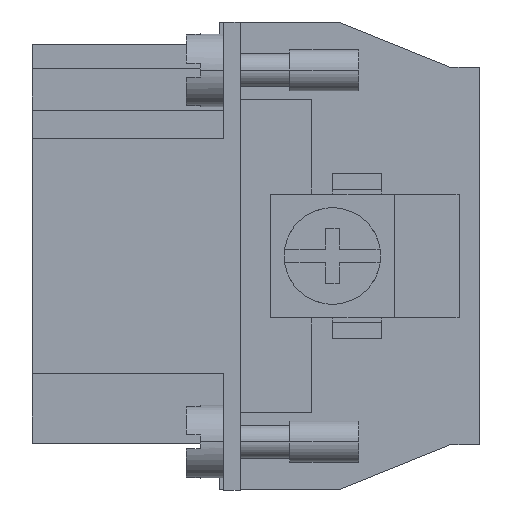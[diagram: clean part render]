
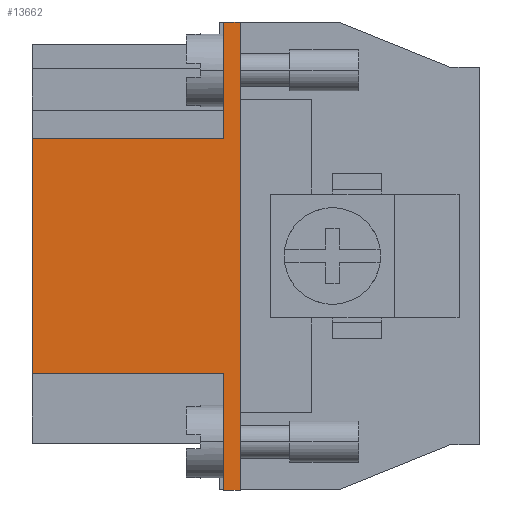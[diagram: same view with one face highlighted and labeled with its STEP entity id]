
A CAD part, left-side view. The second image highlights one B-rep face of the part: STEP entity #13662.
In plain terms, the highlighted planar face has unit normal (-1, 0, 0).
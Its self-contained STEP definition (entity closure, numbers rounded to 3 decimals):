
#331 = ORIENTED_EDGE ( 'NONE', *, *, #3796, .F. ) ;
#749 = VERTEX_POINT ( 'NONE', #3352 ) ;
#769 = VERTEX_POINT ( 'NONE', #13163 ) ;
#776 = EDGE_CURVE ( 'NONE', #749, #769, #1544, .T. ) ;
#947 = EDGE_CURVE ( 'NONE', #769, #11352, #8035, .T. ) ;
#1013 = EDGE_CURVE ( 'NONE', #6728, #7356, #6169, .T. ) ;
#1086 = EDGE_CURVE ( 'NONE', #10490, #749, #2920, .T. ) ;
#1089 = VERTEX_POINT ( 'NONE', #5008 ) ;
#1174 = CARTESIAN_POINT ( 'NONE',  ( -25.5, -13.9, -8.55 ) ) ;
#1420 = ORIENTED_EDGE ( 'NONE', *, *, #947, .T. ) ;
#1449 = ORIENTED_EDGE ( 'NONE', *, *, #1086, .T. ) ;
#1471 = EDGE_CURVE ( 'NONE', #10823, #1089, #10918, .T. ) ;
#1544 = LINE ( 'NONE', #10959, #13483 ) ;
#1875 = LINE ( 'NONE', #10029, #13130 ) ;
#2102 = DIRECTION ( 'NONE',  ( 0., 1., 0. ) ) ;
#2714 = CARTESIAN_POINT ( 'NONE',  ( -25.5, -13.9, 17. ) ) ;
#2920 = LINE ( 'NONE', #11641, #10230 ) ;
#2930 = ORIENTED_EDGE ( 'NONE', *, *, #4680, .T. ) ;
#3129 = ORIENTED_EDGE ( 'NONE', *, *, #1471, .T. ) ;
#3352 = CARTESIAN_POINT ( 'NONE',  ( -25.5, -13.9, 8.55 ) ) ;
#3548 = CARTESIAN_POINT ( 'NONE',  ( -25.5, -15.1, 17. ) ) ;
#3597 = CARTESIAN_POINT ( 'NONE',  ( -25.5, -13.9, -17. ) ) ;
#3773 = DIRECTION ( 'NONE',  ( 0., 0., 1. ) ) ;
#3796 = EDGE_CURVE ( 'NONE', #10490, #7356, #4752, .T. ) ;
#4175 = PLANE ( 'NONE',  #11623 ) ;
#4259 = LINE ( 'NONE', #3597, #9693 ) ;
#4269 = CARTESIAN_POINT ( 'NONE',  ( -25.5, -15.1, -17. ) ) ;
#4680 = EDGE_CURVE ( 'NONE', #1089, #6728, #4259, .T. ) ;
#4718 = DIRECTION ( 'NONE',  ( 0., 0., -1. ) ) ;
#4748 = ORIENTED_EDGE ( 'NONE', *, *, #1013, .T. ) ;
#4752 = LINE ( 'NONE', #13708, #11769 ) ;
#4905 = DIRECTION ( 'NONE',  ( 0., 0., -1. ) ) ;
#4983 = DIRECTION ( 'NONE',  ( 0., 1., 0. ) ) ;
#5008 = CARTESIAN_POINT ( 'NONE',  ( -25.5, -13.9, -17. ) ) ;
#5447 = EDGE_LOOP ( 'NONE', ( #4748, #331, #1449, #6536, #1420, #13780, #3129, #2930 ) ) ;
#5548 = FACE_OUTER_BOUND ( 'NONE', #5447, .T. ) ;
#5886 = DIRECTION ( 'NONE',  ( 0., -1., 0. ) ) ;
#6169 = LINE ( 'NONE', #10281, #13653 ) ;
#6536 = ORIENTED_EDGE ( 'NONE', *, *, #776, .T. ) ;
#6728 = VERTEX_POINT ( 'NONE', #4269 ) ;
#6999 = VECTOR ( 'NONE', #4905, 1000. ) ;
#7356 = VERTEX_POINT ( 'NONE', #3548 ) ;
#8035 = LINE ( 'NONE', #8164, #9043 ) ;
#8164 = CARTESIAN_POINT ( 'NONE',  ( -25.5, 0., -8.55 ) ) ;
#8396 = DIRECTION ( 'NONE',  ( 0., 0., -1. ) ) ;
#8556 = CARTESIAN_POINT ( 'NONE',  ( -25.5, -34.241, -8.55 ) ) ;
#9043 = VECTOR ( 'NONE', #4718, 1000. ) ;
#9629 = DIRECTION ( 'NONE',  ( 1., 0., 0. ) ) ;
#9693 = VECTOR ( 'NONE', #5886, 1000. ) ;
#9730 = DIRECTION ( 'NONE',  ( 0., 1., 0. ) ) ;
#9818 = EDGE_CURVE ( 'NONE', #10823, #11352, #1875, .T. ) ;
#10029 = CARTESIAN_POINT ( 'NONE',  ( -25.5, -34.241, -8.55 ) ) ;
#10222 = CARTESIAN_POINT ( 'NONE',  ( -25.5, -13.9, 17. ) ) ;
#10230 = VECTOR ( 'NONE', #8396, 1000. ) ;
#10281 = CARTESIAN_POINT ( 'NONE',  ( -25.5, -15.1, -8.55 ) ) ;
#10464 = DIRECTION ( 'NONE',  ( 0., -1., 0. ) ) ;
#10490 = VERTEX_POINT ( 'NONE', #2714 ) ;
#10672 = CARTESIAN_POINT ( 'NONE',  ( -25.5, 0., -8.55 ) ) ;
#10823 = VERTEX_POINT ( 'NONE', #1174 ) ;
#10918 = LINE ( 'NONE', #10222, #6999 ) ;
#10959 = CARTESIAN_POINT ( 'NONE',  ( -25.5, -34.241, 8.55 ) ) ;
#11352 = VERTEX_POINT ( 'NONE', #10672 ) ;
#11623 = AXIS2_PLACEMENT_3D ( 'NONE', #8556, #9629, #2102 ) ;
#11641 = CARTESIAN_POINT ( 'NONE',  ( -25.5, -13.9, 17. ) ) ;
#11769 = VECTOR ( 'NONE', #10464, 1000. ) ;
#13130 = VECTOR ( 'NONE', #4983, 1000. ) ;
#13163 = CARTESIAN_POINT ( 'NONE',  ( -25.5, 0., 8.55 ) ) ;
#13483 = VECTOR ( 'NONE', #9730, 1000. ) ;
#13653 = VECTOR ( 'NONE', #3773, 1000. ) ;
#13662 = ADVANCED_FACE ( 'NONE', ( #5548 ), #4175, .F. ) ;
#13708 = CARTESIAN_POINT ( 'NONE',  ( -25.5, -13.9, 17. ) ) ;
#13780 = ORIENTED_EDGE ( 'NONE', *, *, #9818, .F. ) ;
